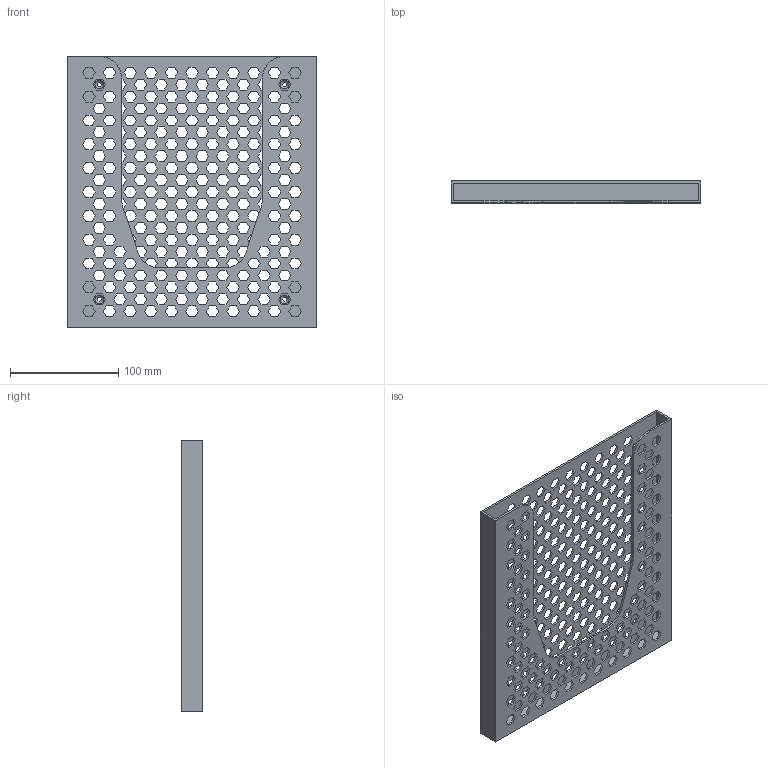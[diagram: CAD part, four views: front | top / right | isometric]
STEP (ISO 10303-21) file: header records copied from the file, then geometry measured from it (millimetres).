
FILE_DESCRIPTION(/* description */ ('STEP AP242','CAx-IF Rec.Pracs.---Representation and Presentation of Product Manufacturing Information (PMI)---4.0---2014-10-13','CAx-IF Rec.Pracs.---3D Tessellated Geometry---0.4---2014-09-14','2;1'),/* implementation_level */ '2;1');
FILE_NAME(/* name */ '67c5e9280d0d282ef93aea7f',/* time_stamp */ '2025-03-03T17:38:51Z',/* author */ (''),/* organization */ (''),/* preprocessor_version */ 'ST-DEVELOPER v20',/* originating_system */ 'ONSHAPE BY PTC INC, 1.194',/* authorisation */ ' ');
FILE_SCHEMA (('AP242_MANAGED_MODEL_BASED_3D_ENGINEERING_MIM_LF { 1 0 10303 442 1 1 4 }'));
Length unit declared in the file: metre
Products named in the file (1): Part 1
Bounding box: 230 x 20 x 250 mm (x, y, z)
Volume: 151336.3 mm3; surface area: 174465.4 mm2
Topology: 1 solids, 1 shells, 1868 faces, 5602 edges, 3736 vertices
Faces by surface type: plane 1858, cylinder 6, cone 4
Entity records: 62868 total; most frequent: CARTESIAN_POINT 11195, ORIENTED_EDGE 11188, DIRECTION 9352, EDGE_CURVE 5594, LINE 5574, VECTOR 5574, VERTEX_POINT 3732, EDGE_LOOP 2494
